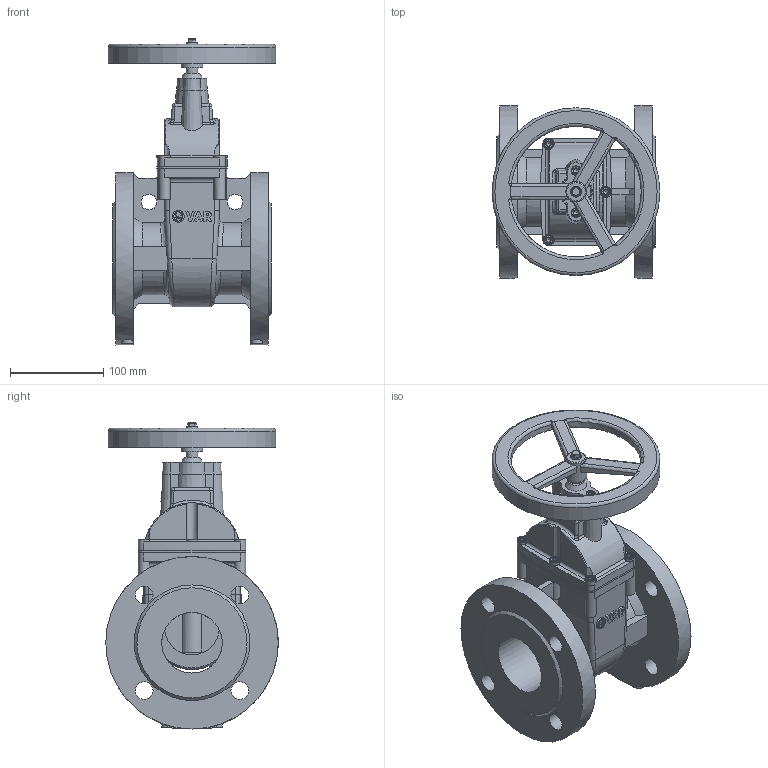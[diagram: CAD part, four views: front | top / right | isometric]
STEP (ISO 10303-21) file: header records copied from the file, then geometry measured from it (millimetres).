
FILE_DESCRIPTION(('STEP AP242'), '1');
FILE_NAME('青溻桄赅', '', ('UNSPECIFIED'), ('UNSPECIFIED'), 'C3D Converter', 'C3D Toolkit', '');
FILE_SCHEMA(('AP242_MANAGED_MODEL_BASED_3D_ENGINEERING_MIM_LF { 1 0 10303 442 1 1 4 }'));
Length unit declared in the file: millimetre
Assembly tree (17 placements, depth 2):
  (unnamed)
    (unnamed)
    (unnamed)
    (unnamed)
    (unnamed)
    (unnamed)  x2
    (unnamed)
    (unnamed)
    (unnamed)
    (unnamed)  x8
Bounding box: 180 x 185 x 328.3 mm (x, y, z)
Volume: 1882281.5 mm3; surface area: 439811.4 mm2
Topology: 20 solids, 20 shells, 940 faces, 2343 edges, 1491 vertices
Faces by surface type: plane 465, cylinder 187, extrusion 135, cone 69, bspline 63, torus 21
Full cylindrical faces by diameter (mm): 5 x11, 6 x30, 10 x8, 10.2 x8, 12 x7, 12.606 x1, 16.829 x2, 19 x8, 24.667 x3, 58.667 x2, 65 x4, 85.267 x4, 90.333 x1, 140 x1, 150 x1, 170 x1, 180 x1, 185 x2
Entity records: 39939 total; most frequent: CARTESIAN_POINT 19634, ORIENTED_EDGE 3740, DIRECTION 2920, EDGE_CURVE 1870, VERTEX_POINT 1269, VECTOR 1020, EDGE_LOOP 997, AXIS2_PLACEMENT_3D 950
